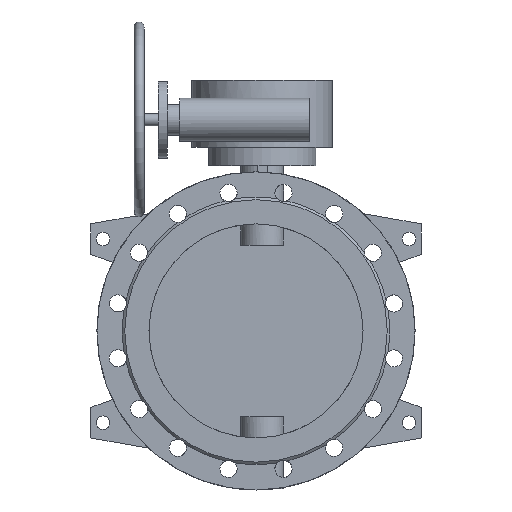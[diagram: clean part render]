
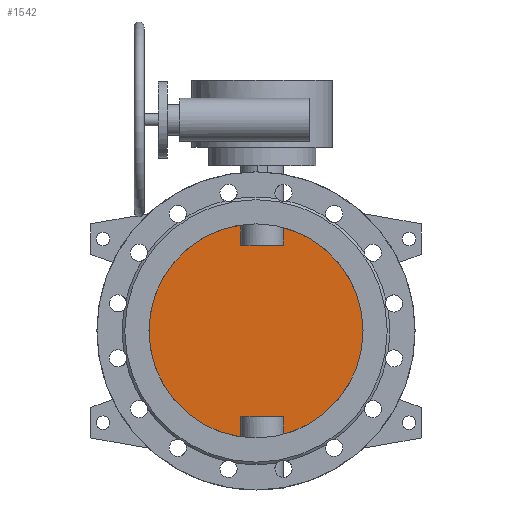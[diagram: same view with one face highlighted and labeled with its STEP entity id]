
A CAD part, front view. The second image highlights one B-rep face of the part: STEP entity #1542.
In plain terms, the highlighted planar face has unit normal (0, -1, 0).
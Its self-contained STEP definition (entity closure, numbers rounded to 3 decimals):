
#1542=ADVANCED_FACE('',(#3119),#3121,.F.);
#3119=FACE_BOUND('',#3120,.T.);
#3120=EDGE_LOOP('',(#4220,#4221,#4222,#4223,#4224,#4225,#4226,#4227));
#3121=PLANE('',#3122);
#3122=AXIS2_PLACEMENT_3D('',#3123,#3124,#3125);
#3123=CARTESIAN_POINT('',(0.,-5.,0.));
#3124=DIRECTION('',(0.,1.,0.));
#3125=DIRECTION('',(1.,0.,0.));
#4220=ORIENTED_EDGE('',*,*,#4726,.T.);
#4221=ORIENTED_EDGE('',*,*,#4753,.T.);
#4222=ORIENTED_EDGE('',*,*,#4754,.T.);
#4223=ORIENTED_EDGE('',*,*,#4755,.T.);
#4224=ORIENTED_EDGE('',*,*,#4728,.T.);
#4225=ORIENTED_EDGE('',*,*,#4756,.T.);
#4226=ORIENTED_EDGE('',*,*,#4757,.T.);
#4227=ORIENTED_EDGE('',*,*,#4758,.T.);
#4726=EDGE_CURVE('',#5591,#5592,#5593,.F.);
#4728=EDGE_CURVE('',#5596,#5594,#5597,.F.);
#4753=EDGE_CURVE('',#5592,#5627,#5628,.T.);
#4754=EDGE_CURVE('',#5627,#5629,#5630,.F.);
#4755=EDGE_CURVE('',#5629,#5596,#5631,.F.);
#4756=EDGE_CURVE('',#5594,#5632,#5633,.F.);
#4757=EDGE_CURVE('',#5632,#5634,#5635,.F.);
#4758=EDGE_CURVE('',#5634,#5591,#5636,.T.);
#5591=VERTEX_POINT('',#13494);
#5592=VERTEX_POINT('',#13495);
#5593=CIRCLE('',#13496,175.);
#5594=VERTEX_POINT('',#13500);
#5596=VERTEX_POINT('',#13598);
#5597=CIRCLE('',#13599,175.);
#5627=VERTEX_POINT('',#13809);
#5628=LINE('',#13810,#13811);
#5629=VERTEX_POINT('',#13813);
#5630=LINE('',#13814,#13815);
#5631=LINE('',#13817,#13818);
#5632=VERTEX_POINT('',#13820);
#5633=LINE('',#13821,#13822);
#5634=VERTEX_POINT('',#13824);
#5635=LINE('',#13825,#13826);
#5636=LINE('',#13828,#13829);
#13494=CARTESIAN_POINT('',(44.641,-5.,-169.21));
#13495=CARTESIAN_POINT('',(44.641,-5.,169.21));
#13496=AXIS2_PLACEMENT_3D('',#13497,#13498,#13499);
#13497=CARTESIAN_POINT('',(0.,-5.,0.));
#13498=DIRECTION('',(0.,1.,0.));
#13499=DIRECTION('',(0.255,0.,0.967));
#13500=CARTESIAN_POINT('',(-24.641,-5.,-173.257));
#13598=CARTESIAN_POINT('',(-24.641,-5.,173.257));
#13599=AXIS2_PLACEMENT_3D('',#13600,#13601,#13602);
#13600=CARTESIAN_POINT('',(0.,-5.,0.));
#13601=DIRECTION('',(0.,1.,0.));
#13602=DIRECTION('',(-0.141,0.,-0.99));
#13809=CARTESIAN_POINT('',(44.641,-5.,140.));
#13810=CARTESIAN_POINT('',(44.641,-5.,169.21));
#13811=VECTOR('',#13812,1.);
#13812=DIRECTION('',(0.,0.,-1.));
#13813=CARTESIAN_POINT('',(-24.641,-5.,140.));
#13814=CARTESIAN_POINT('',(-24.641,-5.,140.));
#13815=VECTOR('',#13816,1.);
#13816=DIRECTION('',(1.,0.,0.));
#13817=CARTESIAN_POINT('',(-24.641,-5.,173.257));
#13818=VECTOR('',#13819,1.);
#13819=DIRECTION('',(0.,0.,-1.));
#13820=CARTESIAN_POINT('',(-24.641,-5.,-140.));
#13821=CARTESIAN_POINT('',(-24.641,-5.,-140.));
#13822=VECTOR('',#13823,1.);
#13823=DIRECTION('',(0.,0.,-1.));
#13824=CARTESIAN_POINT('',(44.641,-5.,-140.));
#13825=CARTESIAN_POINT('',(44.641,-5.,-140.));
#13826=VECTOR('',#13827,1.);
#13827=DIRECTION('',(-1.,0.,0.));
#13828=CARTESIAN_POINT('',(44.641,-5.,-140.));
#13829=VECTOR('',#13830,1.);
#13830=DIRECTION('',(0.,0.,-1.));
